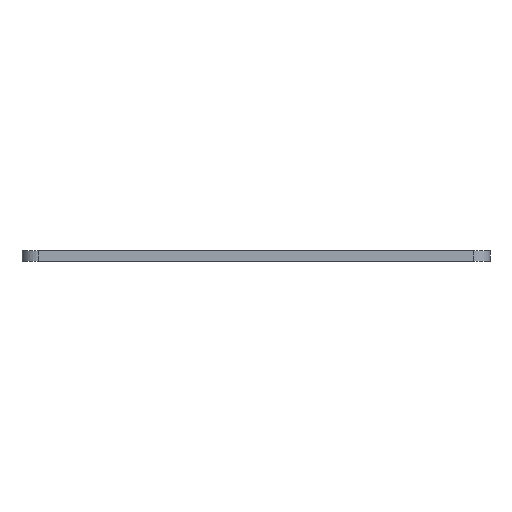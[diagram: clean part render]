
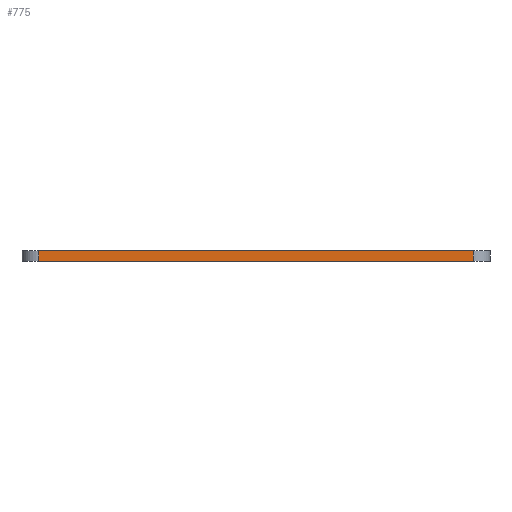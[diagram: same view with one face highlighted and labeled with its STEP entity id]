
A CAD part, left-side view. The second image highlights one B-rep face of the part: STEP entity #775.
In plain terms, the highlighted planar face has unit normal (-1, 0, 0).
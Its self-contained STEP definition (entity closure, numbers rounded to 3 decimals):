
#63 = VERTEX_POINT ( 'NONE', #2147 ) ;
#73 = CARTESIAN_POINT ( 'NONE',  ( -70., 70., 3. ) ) ;
#134 = ORIENTED_EDGE ( 'NONE', *, *, #1254, .T. ) ;
#277 = ORIENTED_EDGE ( 'NONE', *, *, #1945, .T. ) ;
#339 = DIRECTION ( 'NONE',  ( 0., -1., 0. ) ) ;
#379 = VERTEX_POINT ( 'NONE', #1279 ) ;
#382 = DIRECTION ( 'NONE',  ( 0., -1., 0. ) ) ;
#458 = CARTESIAN_POINT ( 'NONE',  ( -70., -65., 3. ) ) ;
#477 = VECTOR ( 'NONE', #339, 1000. ) ;
#498 = VERTEX_POINT ( 'NONE', #458 ) ;
#506 = LINE ( 'NONE', #1826, #477 ) ;
#531 = CARTESIAN_POINT ( 'NONE',  ( -70., 65., 3. ) ) ;
#593 = VECTOR ( 'NONE', #1970, 1000. ) ;
#733 = DIRECTION ( 'NONE',  ( 0., 0., -1. ) ) ;
#751 = DIRECTION ( 'NONE',  ( 1., 0., 0. ) ) ;
#775 = ADVANCED_FACE ( 'NONE', ( #1451 ), #1606, .F. ) ;
#877 = VECTOR ( 'NONE', #984, 1000. ) ;
#975 = AXIS2_PLACEMENT_3D ( 'NONE', #73, #751, #733 ) ;
#984 = DIRECTION ( 'NONE',  ( 0., 0., -1. ) ) ;
#1032 = LINE ( 'NONE', #1961, #593 ) ;
#1223 = LINE ( 'NONE', #1916, #1953 ) ;
#1254 = EDGE_CURVE ( 'NONE', #63, #379, #506, .T. ) ;
#1279 = CARTESIAN_POINT ( 'NONE',  ( -70., -65., 0. ) ) ;
#1353 = VERTEX_POINT ( 'NONE', #1677 ) ;
#1451 = FACE_OUTER_BOUND ( 'NONE', #1897, .T. ) ;
#1477 = EDGE_CURVE ( 'NONE', #379, #498, #1032, .T. ) ;
#1606 = PLANE ( 'NONE',  #975 ) ;
#1648 = ORIENTED_EDGE ( 'NONE', *, *, #2077, .F. ) ;
#1677 = CARTESIAN_POINT ( 'NONE',  ( -70., 65., 3. ) ) ;
#1750 = ORIENTED_EDGE ( 'NONE', *, *, #1477, .T. ) ;
#1826 = CARTESIAN_POINT ( 'NONE',  ( -70., 70., 0. ) ) ;
#1897 = EDGE_LOOP ( 'NONE', ( #134, #1750, #1648, #277 ) ) ;
#1916 = CARTESIAN_POINT ( 'NONE',  ( -70., 70., 3. ) ) ;
#1945 = EDGE_CURVE ( 'NONE', #1353, #63, #2059, .T. ) ;
#1953 = VECTOR ( 'NONE', #382, 1000. ) ;
#1961 = CARTESIAN_POINT ( 'NONE',  ( -70., -65., 3. ) ) ;
#1970 = DIRECTION ( 'NONE',  ( 0., 0., 1. ) ) ;
#2059 = LINE ( 'NONE', #531, #877 ) ;
#2077 = EDGE_CURVE ( 'NONE', #1353, #498, #1223, .T. ) ;
#2147 = CARTESIAN_POINT ( 'NONE',  ( -70., 65., 0. ) ) ;
